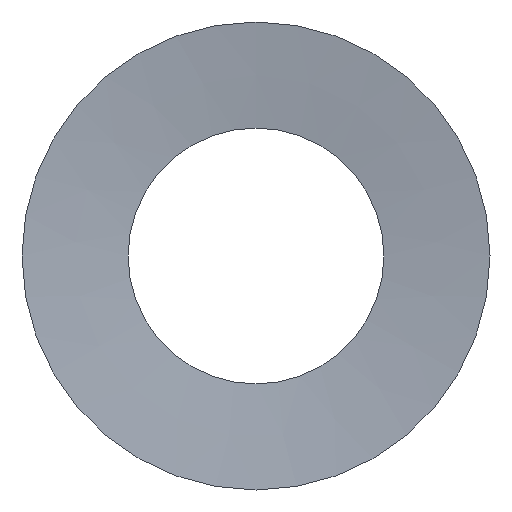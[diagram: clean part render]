
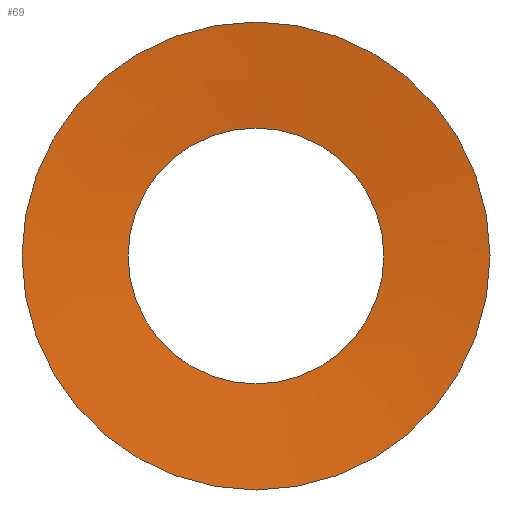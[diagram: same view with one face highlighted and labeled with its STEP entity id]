
A CAD part, front view. The second image highlights one B-rep face of the part: STEP entity #69.
In plain terms, the highlighted conical face has half-angle 83.379 degrees and reference radius 5.8 mm.
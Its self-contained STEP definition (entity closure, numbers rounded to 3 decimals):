
#19=FACE_OUTER_BOUND('',#23,.T.);
#23=EDGE_LOOP('',(#57,#58,#59,#60));
#27=LINE('',#137,#31);
#31=VECTOR('',#118,5.8);
#35=CIRCLE('',#98,4.1);
#36=CIRCLE('',#100,7.5);
#39=VERTEX_POINT('',#132);
#40=VERTEX_POINT('',#136);
#45=EDGE_CURVE('',#39,#39,#35,.T.);
#46=EDGE_CURVE('',#39,#40,#27,.T.);
#47=EDGE_CURVE('',#40,#40,#36,.T.);
#57=ORIENTED_EDGE('',*,*,#45,.T.);
#58=ORIENTED_EDGE('',*,*,#46,.T.);
#59=ORIENTED_EDGE('',*,*,#47,.F.);
#60=ORIENTED_EDGE('',*,*,#46,.F.);
#66=CONICAL_SURFACE('',#99,5.8,1.455);
#69=ADVANCED_FACE('',(#19),#66,.F.);
#98=AXIS2_PLACEMENT_3D('',#134,#114,#115);
#99=AXIS2_PLACEMENT_3D('',#135,#116,#117);
#100=AXIS2_PLACEMENT_3D('',#138,#119,#120);
#114=DIRECTION('center_axis',(0.,1.,0.));
#115=DIRECTION('ref_axis',(1.,0.,0.));
#116=DIRECTION('center_axis',(0.,-1.,0.));
#117=DIRECTION('ref_axis',(0.,0.,-1.));
#118=DIRECTION('',(0.,-0.115,0.993));
#119=DIRECTION('center_axis',(0.,1.,0.));
#120=DIRECTION('ref_axis',(1.,0.,0.));
#132=CARTESIAN_POINT('',(0.,0.395,4.1));
#134=CARTESIAN_POINT('Origin',(0.,0.395,0.));
#135=CARTESIAN_POINT('Origin',(0.,0.197,0.));
#136=CARTESIAN_POINT('',(0.,0.,7.5));
#137=CARTESIAN_POINT('',(0.,0.197,5.8));
#138=CARTESIAN_POINT('Origin',(0.,0.,0.));
